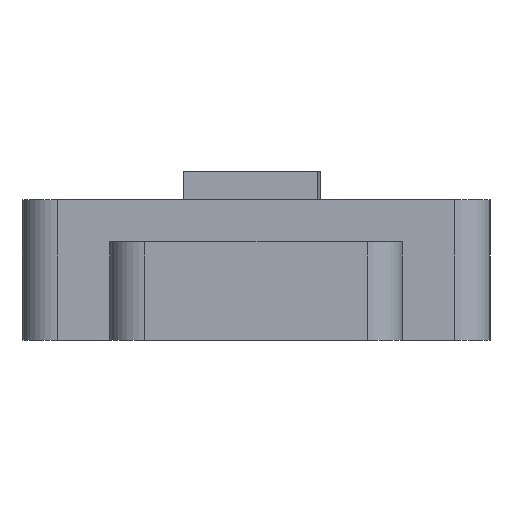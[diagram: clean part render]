
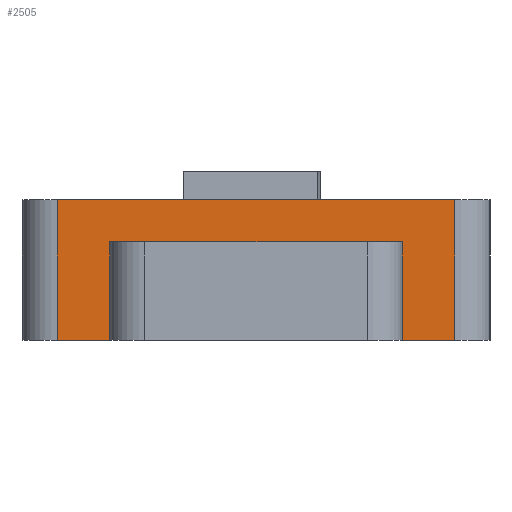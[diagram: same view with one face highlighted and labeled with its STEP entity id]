
A CAD part, left-side view. The second image highlights one B-rep face of the part: STEP entity #2505.
In plain terms, the highlighted planar face has unit normal (-1, 0, 0).
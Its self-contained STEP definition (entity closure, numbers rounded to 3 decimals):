
#62 = PLANE('',#63);
#63 = AXIS2_PLACEMENT_3D('',#64,#65,#66);
#64 = CARTESIAN_POINT('',(0.,0.,0.));
#65 = DIRECTION('',(0.,0.,1.));
#66 = DIRECTION('',(1.,0.,-0.));
#90 = CYLINDRICAL_SURFACE('',#91,0.6);
#91 = AXIS2_PLACEMENT_3D('',#92,#93,#94);
#92 = CARTESIAN_POINT('',(-14.25,-3.4,0.));
#93 = DIRECTION('',(0.,0.,1.));
#94 = DIRECTION('',(0.,-1.,0.));
#118 = PLANE('',#119);
#119 = AXIS2_PLACEMENT_3D('',#120,#121,#122);
#120 = CARTESIAN_POINT('',(0.,0.,2.4));
#121 = DIRECTION('',(0.,0.,1.));
#122 = DIRECTION('',(1.,0.,-0.));
#160 = VERTEX_POINT('',#161);
#161 = CARTESIAN_POINT('',(-14.85,-3.4,0.));
#463 = VERTEX_POINT('',#464);
#464 = CARTESIAN_POINT('',(-14.85,3.4,0.));
#479 = CYLINDRICAL_SURFACE('',#480,0.6);
#480 = AXIS2_PLACEMENT_3D('',#481,#482,#483);
#481 = CARTESIAN_POINT('',(-14.25,3.4,0.));
#482 = DIRECTION('',(0.,0.,1.));
#483 = DIRECTION('',(-0.,1.,0.));
#491 = EDGE_CURVE('',#463,#492,#494,.T.);
#492 = VERTEX_POINT('',#493);
#493 = CARTESIAN_POINT('',(-14.85,2.5,0.));
#494 = SURFACE_CURVE('',#495,(#499,#506),.PCURVE_S1.);
#495 = LINE('',#496,#497);
#496 = CARTESIAN_POINT('',(-14.85,4.,0.));
#497 = VECTOR('',#498,1.);
#498 = DIRECTION('',(0.,-1.,0.));
#499 = PCURVE('',#62,#500);
#500 = DEFINITIONAL_REPRESENTATION('',(#501),#505);
#501 = LINE('',#502,#503);
#502 = CARTESIAN_POINT('',(-14.85,4.));
#503 = VECTOR('',#504,1.);
#504 = DIRECTION('',(0.,-1.));
#505 = ( GEOMETRIC_REPRESENTATION_CONTEXT(2) 
PARAMETRIC_REPRESENTATION_CONTEXT() REPRESENTATION_CONTEXT('2D SPACE',''
  ) );
#506 = PCURVE('',#507,#512);
#507 = PLANE('',#508);
#508 = AXIS2_PLACEMENT_3D('',#509,#510,#511);
#509 = CARTESIAN_POINT('',(-14.85,4.,0.));
#510 = DIRECTION('',(1.,0.,-0.));
#511 = DIRECTION('',(0.,-1.,0.));
#512 = DEFINITIONAL_REPRESENTATION('',(#513),#517);
#513 = LINE('',#514,#515);
#514 = CARTESIAN_POINT('',(0.,0.));
#515 = VECTOR('',#516,1.);
#516 = DIRECTION('',(1.,0.));
#517 = ( GEOMETRIC_REPRESENTATION_CONTEXT(2) 
PARAMETRIC_REPRESENTATION_CONTEXT() REPRESENTATION_CONTEXT('2D SPACE',''
  ) );
#535 = PLANE('',#536);
#536 = AXIS2_PLACEMENT_3D('',#537,#538,#539);
#537 = CARTESIAN_POINT('',(-13.85,2.5,0.));
#538 = DIRECTION('',(0.,-1.,0.));
#539 = DIRECTION('',(-1.,0.,0.));
#638 = VERTEX_POINT('',#639);
#639 = CARTESIAN_POINT('',(-14.85,-2.5,0.));
#653 = PLANE('',#654);
#654 = AXIS2_PLACEMENT_3D('',#655,#656,#657);
#655 = CARTESIAN_POINT('',(-17.25,-2.5,0.));
#656 = DIRECTION('',(0.,1.,0.));
#657 = DIRECTION('',(1.,0.,0.));
#665 = EDGE_CURVE('',#638,#160,#666,.T.);
#666 = SURFACE_CURVE('',#667,(#671,#678),.PCURVE_S1.);
#667 = LINE('',#668,#669);
#668 = CARTESIAN_POINT('',(-14.85,4.,0.));
#669 = VECTOR('',#670,1.);
#670 = DIRECTION('',(0.,-1.,0.));
#671 = PCURVE('',#62,#672);
#672 = DEFINITIONAL_REPRESENTATION('',(#673),#677);
#673 = LINE('',#674,#675);
#674 = CARTESIAN_POINT('',(-14.85,4.));
#675 = VECTOR('',#676,1.);
#676 = DIRECTION('',(0.,-1.));
#677 = ( GEOMETRIC_REPRESENTATION_CONTEXT(2) 
PARAMETRIC_REPRESENTATION_CONTEXT() REPRESENTATION_CONTEXT('2D SPACE',''
  ) );
#678 = PCURVE('',#507,#679);
#679 = DEFINITIONAL_REPRESENTATION('',(#680),#684);
#680 = LINE('',#681,#682);
#681 = CARTESIAN_POINT('',(0.,0.));
#682 = VECTOR('',#683,1.);
#683 = DIRECTION('',(1.,0.));
#684 = ( GEOMETRIC_REPRESENTATION_CONTEXT(2) 
PARAMETRIC_REPRESENTATION_CONTEXT() REPRESENTATION_CONTEXT('2D SPACE',''
  ) );
#690 = EDGE_CURVE('',#160,#691,#693,.T.);
#691 = VERTEX_POINT('',#692);
#692 = CARTESIAN_POINT('',(-14.85,-3.4,2.4));
#693 = SURFACE_CURVE('',#694,(#698,#705),.PCURVE_S1.);
#694 = LINE('',#695,#696);
#695 = CARTESIAN_POINT('',(-14.85,-3.4,0.));
#696 = VECTOR('',#697,1.);
#697 = DIRECTION('',(0.,0.,1.));
#698 = PCURVE('',#90,#699);
#699 = DEFINITIONAL_REPRESENTATION('',(#700),#704);
#700 = LINE('',#701,#702);
#701 = CARTESIAN_POINT('',(-1.571,0.));
#702 = VECTOR('',#703,1.);
#703 = DIRECTION('',(-0.,1.));
#704 = ( GEOMETRIC_REPRESENTATION_CONTEXT(2) 
PARAMETRIC_REPRESENTATION_CONTEXT() REPRESENTATION_CONTEXT('2D SPACE',''
  ) );
#705 = PCURVE('',#507,#706);
#706 = DEFINITIONAL_REPRESENTATION('',(#707),#711);
#707 = LINE('',#708,#709);
#708 = CARTESIAN_POINT('',(7.4,0.));
#709 = VECTOR('',#710,1.);
#710 = DIRECTION('',(0.,-1.));
#711 = ( GEOMETRIC_REPRESENTATION_CONTEXT(2) 
PARAMETRIC_REPRESENTATION_CONTEXT() REPRESENTATION_CONTEXT('2D SPACE',''
  ) );
#866 = VERTEX_POINT('',#867);
#867 = CARTESIAN_POINT('',(-14.85,3.4,2.4));
#889 = EDGE_CURVE('',#866,#691,#890,.T.);
#890 = SURFACE_CURVE('',#891,(#895,#902),.PCURVE_S1.);
#891 = LINE('',#892,#893);
#892 = CARTESIAN_POINT('',(-14.85,4.,2.4));
#893 = VECTOR('',#894,1.);
#894 = DIRECTION('',(0.,-1.,0.));
#895 = PCURVE('',#118,#896);
#896 = DEFINITIONAL_REPRESENTATION('',(#897),#901);
#897 = LINE('',#898,#899);
#898 = CARTESIAN_POINT('',(-14.85,4.));
#899 = VECTOR('',#900,1.);
#900 = DIRECTION('',(0.,-1.));
#901 = ( GEOMETRIC_REPRESENTATION_CONTEXT(2) 
PARAMETRIC_REPRESENTATION_CONTEXT() REPRESENTATION_CONTEXT('2D SPACE',''
  ) );
#902 = PCURVE('',#507,#903);
#903 = DEFINITIONAL_REPRESENTATION('',(#904),#908);
#904 = LINE('',#905,#906);
#905 = CARTESIAN_POINT('',(0.,-2.4));
#906 = VECTOR('',#907,1.);
#907 = DIRECTION('',(1.,0.));
#908 = ( GEOMETRIC_REPRESENTATION_CONTEXT(2) 
PARAMETRIC_REPRESENTATION_CONTEXT() REPRESENTATION_CONTEXT('2D SPACE',''
  ) );
#2505 = ADVANCED_FACE('',(#2506),#507,.F.);
#2506 = FACE_BOUND('',#2507,.F.);
#2507 = EDGE_LOOP('',(#2508,#2509,#2530,#2531,#2532,#2533,#2554,#2580));
#2508 = ORIENTED_EDGE('',*,*,#491,.F.);
#2509 = ORIENTED_EDGE('',*,*,#2510,.T.);
#2510 = EDGE_CURVE('',#463,#866,#2511,.T.);
#2511 = SURFACE_CURVE('',#2512,(#2516,#2523),.PCURVE_S1.);
#2512 = LINE('',#2513,#2514);
#2513 = CARTESIAN_POINT('',(-14.85,3.4,0.));
#2514 = VECTOR('',#2515,1.);
#2515 = DIRECTION('',(0.,0.,1.));
#2516 = PCURVE('',#507,#2517);
#2517 = DEFINITIONAL_REPRESENTATION('',(#2518),#2522);
#2518 = LINE('',#2519,#2520);
#2519 = CARTESIAN_POINT('',(0.6,0.));
#2520 = VECTOR('',#2521,1.);
#2521 = DIRECTION('',(0.,-1.));
#2522 = ( GEOMETRIC_REPRESENTATION_CONTEXT(2) 
PARAMETRIC_REPRESENTATION_CONTEXT() REPRESENTATION_CONTEXT('2D SPACE',''
  ) );
#2523 = PCURVE('',#479,#2524);
#2524 = DEFINITIONAL_REPRESENTATION('',(#2525),#2529);
#2525 = LINE('',#2526,#2527);
#2526 = CARTESIAN_POINT('',(1.571,0.));
#2527 = VECTOR('',#2528,1.);
#2528 = DIRECTION('',(0.,1.));
#2529 = ( GEOMETRIC_REPRESENTATION_CONTEXT(2) 
PARAMETRIC_REPRESENTATION_CONTEXT() REPRESENTATION_CONTEXT('2D SPACE',''
  ) );
#2530 = ORIENTED_EDGE('',*,*,#889,.T.);
#2531 = ORIENTED_EDGE('',*,*,#690,.F.);
#2532 = ORIENTED_EDGE('',*,*,#665,.F.);
#2533 = ORIENTED_EDGE('',*,*,#2534,.T.);
#2534 = EDGE_CURVE('',#638,#2535,#2537,.T.);
#2535 = VERTEX_POINT('',#2536);
#2536 = CARTESIAN_POINT('',(-14.85,-2.5,1.68));
#2537 = SURFACE_CURVE('',#2538,(#2542,#2548),.PCURVE_S1.);
#2538 = LINE('',#2539,#2540);
#2539 = CARTESIAN_POINT('',(-14.85,-2.5,0.));
#2540 = VECTOR('',#2541,1.);
#2541 = DIRECTION('',(0.,-0.,1.));
#2542 = PCURVE('',#507,#2543);
#2543 = DEFINITIONAL_REPRESENTATION('',(#2544),#2547);
#2544 = B_SPLINE_CURVE_WITH_KNOTS('',1,(#2545,#2546),.UNSPECIFIED.,.F.,
  .F.,(2,2),(0.,1.68),.PIECEWISE_BEZIER_KNOTS.);
#2545 = CARTESIAN_POINT('',(6.5,0.));
#2546 = CARTESIAN_POINT('',(6.5,-1.68));
#2547 = ( GEOMETRIC_REPRESENTATION_CONTEXT(2) 
PARAMETRIC_REPRESENTATION_CONTEXT() REPRESENTATION_CONTEXT('2D SPACE',''
  ) );
#2548 = PCURVE('',#653,#2549);
#2549 = DEFINITIONAL_REPRESENTATION('',(#2550),#2553);
#2550 = B_SPLINE_CURVE_WITH_KNOTS('',1,(#2551,#2552),.UNSPECIFIED.,.F.,
  .F.,(2,2),(0.,1.68),.PIECEWISE_BEZIER_KNOTS.);
#2551 = CARTESIAN_POINT('',(2.4,0.));
#2552 = CARTESIAN_POINT('',(2.4,-1.68));
#2553 = ( GEOMETRIC_REPRESENTATION_CONTEXT(2) 
PARAMETRIC_REPRESENTATION_CONTEXT() REPRESENTATION_CONTEXT('2D SPACE',''
  ) );
#2554 = ORIENTED_EDGE('',*,*,#2555,.F.);
#2555 = EDGE_CURVE('',#2556,#2535,#2558,.T.);
#2556 = VERTEX_POINT('',#2557);
#2557 = CARTESIAN_POINT('',(-14.85,2.5,1.68));
#2558 = SURFACE_CURVE('',#2559,(#2563,#2569),.PCURVE_S1.);
#2559 = LINE('',#2560,#2561);
#2560 = CARTESIAN_POINT('',(-14.85,2.,1.68));
#2561 = VECTOR('',#2562,1.);
#2562 = DIRECTION('',(0.,-1.,0.));
#2563 = PCURVE('',#507,#2564);
#2564 = DEFINITIONAL_REPRESENTATION('',(#2565),#2568);
#2565 = B_SPLINE_CURVE_WITH_KNOTS('',1,(#2566,#2567),.UNSPECIFIED.,.F.,
  .F.,(2,2),(-0.5,4.5),.PIECEWISE_BEZIER_KNOTS.);
#2566 = CARTESIAN_POINT('',(1.5,-1.68));
#2567 = CARTESIAN_POINT('',(6.5,-1.68));
#2568 = ( GEOMETRIC_REPRESENTATION_CONTEXT(2) 
PARAMETRIC_REPRESENTATION_CONTEXT() REPRESENTATION_CONTEXT('2D SPACE',''
  ) );
#2569 = PCURVE('',#2570,#2575);
#2570 = PLANE('',#2571);
#2571 = AXIS2_PLACEMENT_3D('',#2572,#2573,#2574);
#2572 = CARTESIAN_POINT('',(-15.55,0.,1.68));
#2573 = DIRECTION('',(0.,0.,1.));
#2574 = DIRECTION('',(1.,0.,-0.));
#2575 = DEFINITIONAL_REPRESENTATION('',(#2576),#2579);
#2576 = B_SPLINE_CURVE_WITH_KNOTS('',1,(#2577,#2578),.UNSPECIFIED.,.F.,
  .F.,(2,2),(-0.5,4.5),.PIECEWISE_BEZIER_KNOTS.);
#2577 = CARTESIAN_POINT('',(0.7,2.5));
#2578 = CARTESIAN_POINT('',(0.7,-2.5));
#2579 = ( GEOMETRIC_REPRESENTATION_CONTEXT(2) 
PARAMETRIC_REPRESENTATION_CONTEXT() REPRESENTATION_CONTEXT('2D SPACE',''
  ) );
#2580 = ORIENTED_EDGE('',*,*,#2581,.T.);
#2581 = EDGE_CURVE('',#2556,#492,#2582,.T.);
#2582 = SURFACE_CURVE('',#2583,(#2587,#2593),.PCURVE_S1.);
#2583 = LINE('',#2584,#2585);
#2584 = CARTESIAN_POINT('',(-14.85,2.5,0.));
#2585 = VECTOR('',#2586,1.);
#2586 = DIRECTION('',(0.,-0.,-1.));
#2587 = PCURVE('',#507,#2588);
#2588 = DEFINITIONAL_REPRESENTATION('',(#2589),#2592);
#2589 = B_SPLINE_CURVE_WITH_KNOTS('',1,(#2590,#2591),.UNSPECIFIED.,.F.,
  .F.,(2,2),(-1.68,0.),.PIECEWISE_BEZIER_KNOTS.);
#2590 = CARTESIAN_POINT('',(1.5,-1.68));
#2591 = CARTESIAN_POINT('',(1.5,0.));
#2592 = ( GEOMETRIC_REPRESENTATION_CONTEXT(2) 
PARAMETRIC_REPRESENTATION_CONTEXT() REPRESENTATION_CONTEXT('2D SPACE',''
  ) );
#2593 = PCURVE('',#535,#2594);
#2594 = DEFINITIONAL_REPRESENTATION('',(#2595),#2598);
#2595 = B_SPLINE_CURVE_WITH_KNOTS('',1,(#2596,#2597),.UNSPECIFIED.,.F.,
  .F.,(2,2),(-1.68,0.),.PIECEWISE_BEZIER_KNOTS.);
#2596 = CARTESIAN_POINT('',(1.,-1.68));
#2597 = CARTESIAN_POINT('',(1.,0.));
#2598 = ( GEOMETRIC_REPRESENTATION_CONTEXT(2) 
PARAMETRIC_REPRESENTATION_CONTEXT() REPRESENTATION_CONTEXT('2D SPACE',''
  ) );
